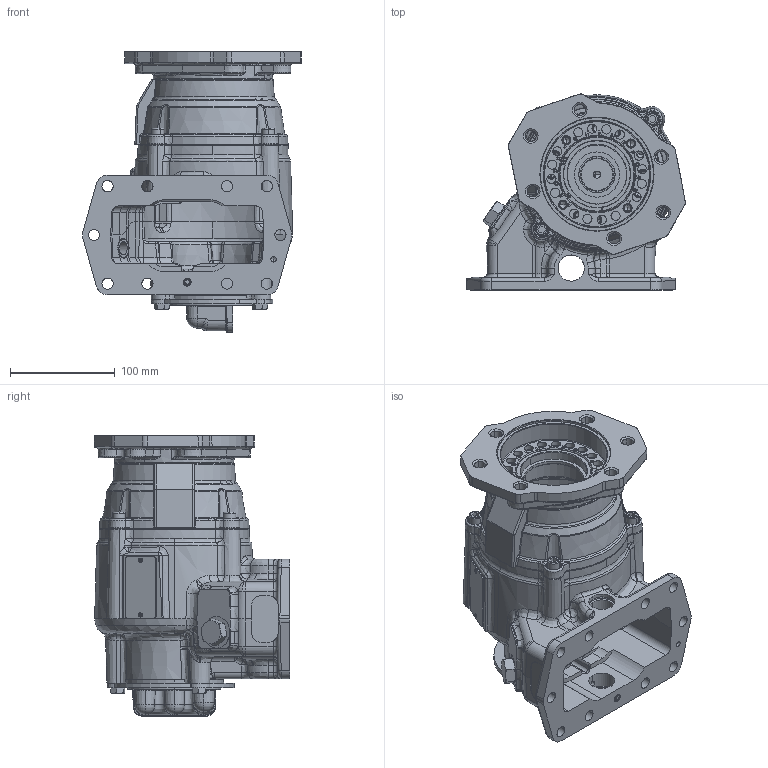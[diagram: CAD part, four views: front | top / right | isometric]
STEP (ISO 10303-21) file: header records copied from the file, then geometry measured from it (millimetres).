
FILE_DESCRIPTION (( 'STEP AP203' ), '1' );
FILE_NAME ('A30-A10XX-MX1BBPX.STEP', '2023-03-30T17:37:41', ( '' ), ( '' ), 'SwSTEP 2.0', 'SolidWorks 2021', '' );
FILE_SCHEMA (( 'CONFIG_CONTROL_DESIGN' ));
Length unit declared in the file: inch
Products named in the file (8): 19T3314_RearCover_HexHeadCapScrew_19T33134; 15T64348_DIECAST DESIGN; RemoteMountRearCover; 19T36588_19T36588; 15T65391DB3; A30-A10XX-MX1BBPX; 14T65388DB2; 01T43462_1Arrangement
Assembly tree (12 placements, depth 2):
  A30-A10XX-MX1BBPX
    01T43462_1Arrangement
    14T65388DB2
    15T65391DB3
    19T36588_19T36588  x4
    RemoteMountRearCover
    15T64348_DIECAST DESIGN
    19T3314_RearCover_HexHeadCapScrew_19T33134  x3
Bounding box: 208.99 x 186.87 x 267.67 mm (x, y, z)
Volume: 671340.5 mm3; surface area: 425938.6 mm2
Topology: 13 solids, 26 shells, 3731 faces, 9682 edges, 6047 vertices
Faces by surface type: plane 1322, bspline 1234, cylinder 619, cone 358, torus 186, sphere 12
Entity records: 162746 total; most frequent: CARTESIAN_POINT 81471, ORIENTED_EDGE 18664, DIRECTION 13638, EDGE_CURVE 9341, VERTEX_POINT 5904, AXIS2_PLACEMENT_3D 4552, VECTOR 4534, LINE 4534
